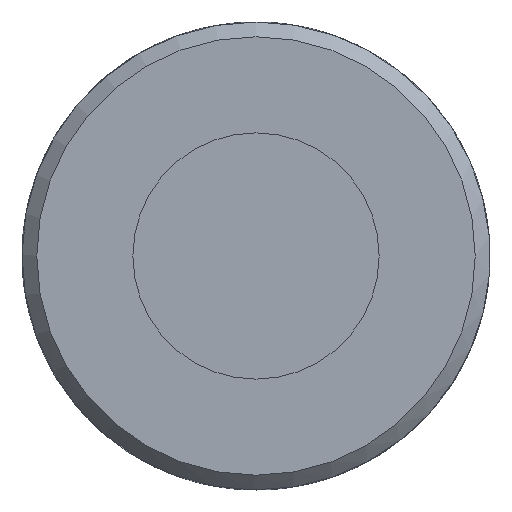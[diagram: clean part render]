
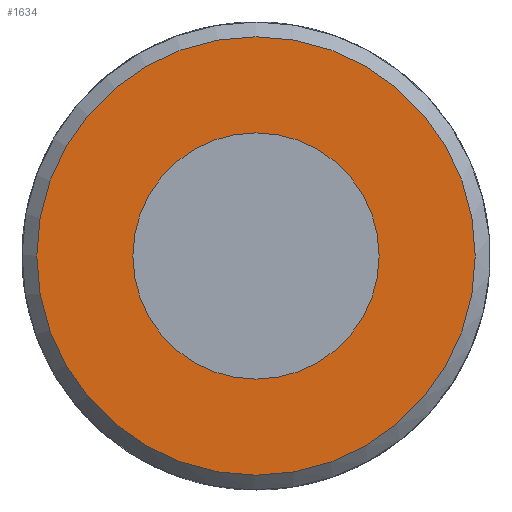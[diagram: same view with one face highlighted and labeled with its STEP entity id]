
A CAD part, front view. The second image highlights one B-rep face of the part: STEP entity #1634.
In plain terms, the highlighted planar face has unit normal (0, -1, 0).
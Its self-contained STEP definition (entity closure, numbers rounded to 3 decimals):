
#303=PLANE('',#1809);
#352=FACE_BOUND('',#579,.T.);
#438=FACE_OUTER_BOUND('',#578,.T.);
#578=EDGE_LOOP('',(#1425));
#579=EDGE_LOOP('',(#1426));
#676=CIRCLE('',#1802,25.);
#678=CIRCLE('',#1805,44.5);
#818=VERTEX_POINT('',#3335);
#820=VERTEX_POINT('',#3340);
#1025=EDGE_CURVE('',#818,#818,#676,.T.);
#1027=EDGE_CURVE('',#820,#820,#678,.T.);
#1425=ORIENTED_EDGE('',*,*,#1027,.F.);
#1426=ORIENTED_EDGE('',*,*,#1025,.T.);
#1634=ADVANCED_FACE('',(#438,#352),#303,.F.);
#1802=AXIS2_PLACEMENT_3D('',#3336,#2176,#2177);
#1805=AXIS2_PLACEMENT_3D('',#3341,#2182,#2183);
#1809=AXIS2_PLACEMENT_3D('',#3585,#2194,#2195);
#2176=DIRECTION('center_axis',(0.,1.,0.));
#2177=DIRECTION('ref_axis',(-1.,0.,0.));
#2182=DIRECTION('center_axis',(0.,1.,0.));
#2183=DIRECTION('ref_axis',(1.,0.,0.));
#2194=DIRECTION('center_axis',(0.,1.,0.));
#2195=DIRECTION('ref_axis',(0.,0.,1.));
#3335=CARTESIAN_POINT('',(25.,-118.,0.));
#3336=CARTESIAN_POINT('Origin',(0.,-118.,0.));
#3340=CARTESIAN_POINT('',(-44.5,-118.,0.));
#3341=CARTESIAN_POINT('Origin',(0.,-118.,0.));
#3585=CARTESIAN_POINT('Origin',(0.,-118.,0.));
